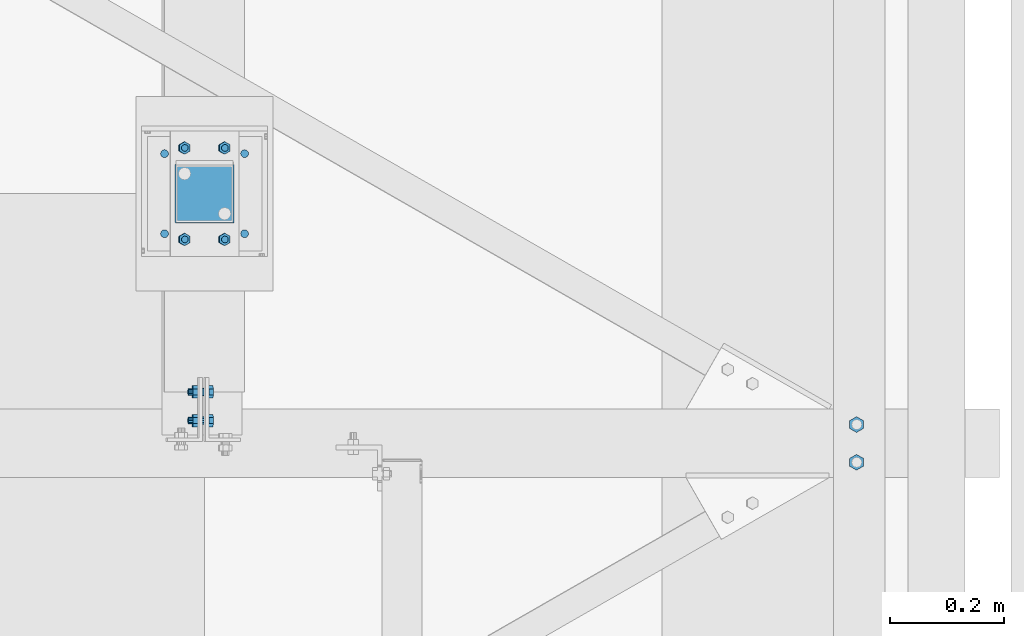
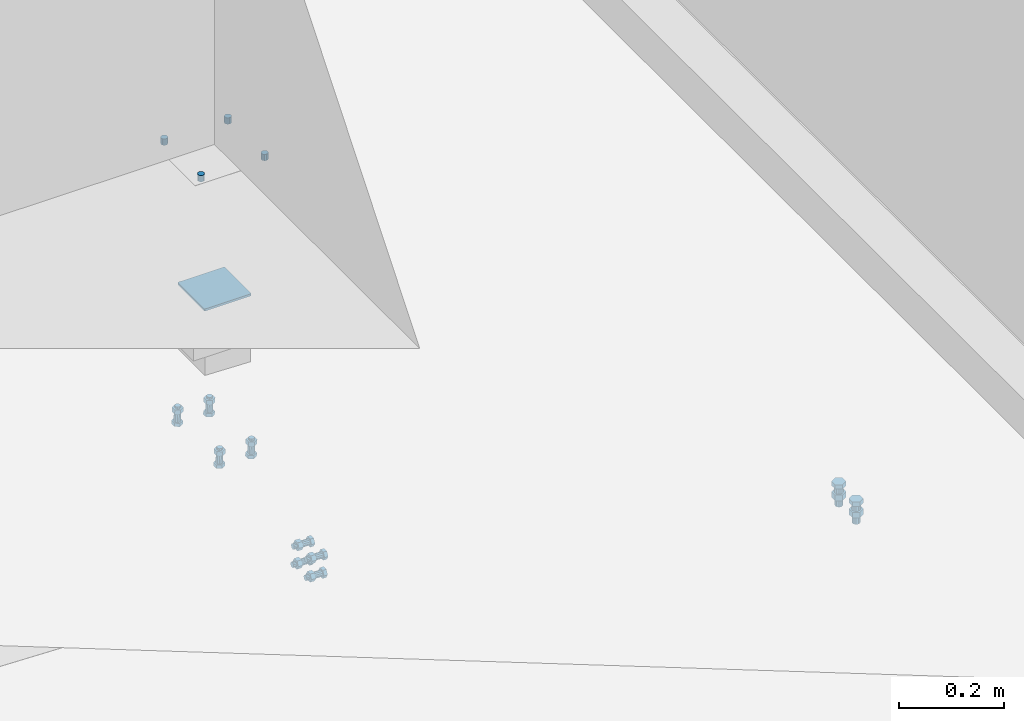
# One storey, part 396 of 3134: 5 mechanical fasteners, 4 elements without a shape of their own.
"""IFC2X3 building model written with IfcOpenShell, lengths in millimetres."""

from ifc_helpers import new_model, si_unit, frame, origin_with_axes, place, context, subcontext, project, spatial, faceted_brep, source, transform, mapped, material, type_object, element, aggregate, save


model = new_model("IFC2X3")

# Units and contexts
model_context = context("Model", 3, precision=1e-05, world=origin_with_axes())
body_context = subcontext(model_context, "Body", "Model", "MODEL_VIEW")
ifc_project = project(units=[si_unit("LENGTHUNIT", "METRE", prefix="MILLI"), si_unit("AREAUNIT", "SQUARE_METRE"), si_unit("VOLUMEUNIT", "CUBIC_METRE"), si_unit("MASSUNIT", "GRAM", prefix="KILO"), si_unit("TIMEUNIT", "SECOND"), si_unit("PLANEANGLEUNIT", "RADIAN"), si_unit("SOLIDANGLEUNIT", "STERADIAN"), si_unit("THERMODYNAMICTEMPERATUREUNIT", "DEGREE_CELSIUS"), si_unit("LUMINOUSINTENSITYUNIT", "LUMEN")], contexts=[model_context])

# Site, building, storey
site_placement = place(None, origin_with_axes())
site = spatial("IfcSite", under=ifc_project, at=site_placement, CompositionType="ELEMENT")
building_placement = place(site_placement, origin_with_axes())
building = spatial("IfcBuilding", under=site, at=building_placement, Name="Undefined", CompositionType="ELEMENT")
storey_placement = place(building_placement, origin_with_axes())
storey = spatial("IfcBuildingStorey", under=building, at=storey_placement, Name="Undefined", CompositionType="ELEMENT", Elevation=0.0)

# Assembly, mechanical fastener
assembly_1_placement = place(storey_placement, origin_with_axes())
assembly_1 = element("IfcElementAssembly", 1, at=assembly_1_placement, inside=storey, AssemblyPlace="NOTDEFINED", PredefinedType="RIGID_FRAME")
ifc_material_1 = material(Name="6.8")
mechanical_fastener_type = type_object("IfcMechanicalFastenerType", Name="Bolt assembly")
shared_shape_1 = source(origin_with_axes(), body_context, "Body", "Brep", [
    faceted_brep([(51.5, 1.36424205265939e-12, 50.0), (51.3858192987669, 1.36424205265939e-12, 50.5740251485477), (51.0606601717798, 1.36424205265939e-12, 51.0606601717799), (50.5740251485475, 1.36424205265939e-12, 51.385819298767), (-50.0000000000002, 1.36424205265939e-12, 51.5), (-50.7500000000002, 1.36424205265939e-12, 51.2990381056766), (-51.2990381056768, 1.36424205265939e-12, 50.7499999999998), (-51.5, 1.36424205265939e-12, 49.9999999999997), (-51.5, 1.36424205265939e-12, -50.0000000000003), (-51.2990381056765, 1.36424205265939e-12, -50.7500000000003), (-50.7499999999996, 1.36424205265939e-12, -51.2990381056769), (-49.9999999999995, 1.36424205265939e-12, -51.5), (50.0000000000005, 1.36424205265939e-12, -51.5), (50.7500000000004, 1.36424205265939e-12, -51.2990381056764), (51.2990381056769, 1.36424205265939e-12, -50.7499999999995), (51.5, 1.36424205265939e-12, -49.9999999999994), (51.5, 5.10000000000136, -49.9999999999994), (51.2990381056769, 5.10000000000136, -50.7499999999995), (50.7500000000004, 5.10000000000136, -51.2990381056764), (50.0000000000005, 5.10000000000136, -51.5), (-49.9999999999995, 5.10000000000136, -51.5), (-50.7499999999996, 5.10000000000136, -51.2990381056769), (-51.2990381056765, 5.10000000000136, -50.7500000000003), (-51.5, 5.10000000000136, -50.0000000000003), (-51.5, 5.10000000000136, 49.9999999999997), (-51.2990381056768, 5.10000000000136, 50.7499999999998), (-50.7500000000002, 5.10000000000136, 51.2990381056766), (-50.0000000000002, 5.10000000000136, 51.5), (50.5740251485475, 5.10000000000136, 51.385819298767), (51.0606601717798, 5.10000000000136, 51.0606601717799), (51.3858192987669, 5.10000000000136, 50.5740251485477), (51.5, 5.10000000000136, 50.0)], [[[0, 1, 2, 3, 4, 5, 6, 7, 8, 9, 10, 11, 12, 13, 14, 15]], [[16, 17, 18, 19, 20, 21, 22, 23, 24, 25, 26, 27, 28, 29, 30, 31]], [[0, 31, 30, 1]], [[1, 30, 29, 2]], [[2, 29, 28, 3]], [[3, 28, 27, 4]], [[4, 27, 26, 5]], [[5, 26, 25, 6]], [[6, 25, 24, 7]], [[7, 24, 23, 8]], [[8, 23, 22, 9]], [[9, 22, 21, 10]], [[10, 21, 20, 11]], [[11, 20, 19, 12]], [[12, 19, 18, 13]], [[13, 18, 17, 14]], [[14, 17, 16, 15]], [[15, 16, 31, 0]]]),
])
mechanical_fastener_1_placement = place(assembly_1_placement, frame((77945.0, 22320.0, 4146.62), z_axis=(0.0, -1.0, 0.0), x_axis=(-1.0, 0.0, 0.0)))
mechanical_fastener_1 = element("IfcMechanicalFastener", 2, at=mechanical_fastener_1_placement, type_object=mechanical_fastener_type, material=ifc_material_1, Name="Bolt assembly", NominalDiameter=10.0, NominalLength=5.0, context=body_context, shape_type="MappedRepresentation", body=[
    mapped(shared_shape_1, transform((0.0, 0.0, 0.0))),
])

assembly_2_placement = place(storey_placement, origin_with_axes())
assembly_2 = element("IfcElementAssembly", 3, at=assembly_2_placement, inside=storey, Name="UPN260", AssemblyPlace="NOTDEFINED", PredefinedType="RIGID_FRAME")
ifc_material_2 = material(Name="8.8")
shared_shape_2 = source(origin_with_axes(), body_context, "Body", "Brep", [
    faceted_brep([(13.856406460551, -10.0, 0.0), (6.92820323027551, -10.0, 12.0), (-6.92820323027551, -10.0, 12.0), (-13.856406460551, -10.0, 1.69692038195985e-15), (-6.92820323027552, -10.0, -12.0), (6.9282032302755, -10.0, -12.0), (6.9282032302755, 0.0, -12.0), (-6.92820323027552, 0.0, -12.0), (-13.856406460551, 0.0, 1.69692038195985e-15), (-6.92820323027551, 0.0, 12.0), (6.92820323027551, 0.0, 12.0), (13.856406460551, 0.0, 0.0), (8.0, 0.0, 0.0), (6.92820323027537, 0.0, 4.00000000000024), (3.99999999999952, 0.0, 6.92820323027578), (-8.29068785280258e-13, 0.0, 8.0), (-4.00000000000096, 0.0, 6.92820323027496), (-6.9282032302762, 0.0, 3.99999999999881), (-8.0, 0.0, -1.65813757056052e-12), (-6.92820323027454, 0.0, -4.00000000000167), (-3.99999999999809, 0.0, -6.92820323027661), (2.47832457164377e-12, 0.0, -8.0), (4.00000000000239, 0.0, -6.92820323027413), (6.92820323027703, 0.0, -3.99999999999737), (6.92820323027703, 45.0, -3.99999999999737), (4.00000000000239, 45.0, -6.92820323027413), (2.47832457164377e-12, 45.0, -8.0), (-3.99999999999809, 45.0, -6.92820323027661), (-6.92820323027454, 45.0, -4.00000000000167), (-8.0, 45.0, -1.65813757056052e-12), (-6.9282032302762, 45.0, 3.99999999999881), (-4.00000000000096, 45.0, 6.92820323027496), (-8.29068785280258e-13, 45.0, 8.0), (3.99999999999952, 45.0, 6.92820323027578), (6.92820323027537, 45.0, 4.00000000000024), (8.0, 45.0, 0.0), (13.856406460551, 13.9999999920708, 0.0), (6.92820323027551, 13.9999999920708, 12.0), (-6.92820323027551, 13.9999999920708, 12.0), (-13.856406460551, 13.9999999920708, 1.69692038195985e-15), (-6.92820323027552, 13.9999999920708, -12.0), (6.9282032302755, 13.9999999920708, -12.0), (6.9282032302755, 27.0, -12.0), (-6.92820323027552, 27.0, -12.0), (-13.856406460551, 27.0, 1.69692038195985e-15), (-6.92820323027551, 27.0, 12.0), (6.92820323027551, 27.0, 12.0), (13.856406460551, 27.0, 0.0)], [[[0, 1, 2, 3, 4, 5]], [[6, 7, 8, 9, 10, 11]], [[0, 11, 10, 1]], [[1, 10, 9, 2]], [[2, 9, 8, 3]], [[3, 8, 7, 4]], [[4, 7, 6, 5]], [[5, 6, 11, 0]], [[12, 13, 14, 15, 16, 17, 18, 19, 20, 21, 22, 23]], [[24, 25, 26, 27, 28, 29, 30, 31, 32, 33, 34, 35]], [[12, 35, 34, 13]], [[13, 34, 33, 14]], [[14, 33, 32, 15]], [[15, 32, 31, 16]], [[16, 31, 30, 17]], [[17, 30, 29, 18]], [[18, 29, 28, 19]], [[19, 28, 27, 20]], [[20, 27, 26, 21]], [[21, 26, 25, 22]], [[22, 25, 24, 23]], [[23, 24, 35, 12]], [[36, 37, 38, 39, 40, 41]], [[42, 43, 44, 45, 46, 47]], [[36, 47, 46, 37]], [[37, 46, 45, 38]], [[38, 45, 44, 39]], [[39, 44, 43, 40]], [[40, 43, 42, 41]], [[41, 42, 47, 36]]]),
    faceted_brep([(9.0, -3.46568413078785e-07, 0.0), (7.79422863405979, -3.46568413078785e-07, 4.50000000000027), (4.49999999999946, -3.46568413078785e-07, 7.79422863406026), (-9.3270238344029e-13, -3.46568413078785e-07, 9.0), (-4.50000000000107, -3.46568413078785e-07, 7.79422863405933), (-7.79422863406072, -3.46568413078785e-07, 4.49999999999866), (-9.0, -3.46568413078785e-07, -1.86540476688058e-12), (-7.79422863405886, -3.46568413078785e-07, -4.50000000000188), (-4.49999999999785, -3.46568413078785e-07, -7.79422863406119), (2.78811514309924e-12, -3.46568413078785e-07, -9.0), (4.50000000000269, -3.46568413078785e-07, -7.7942286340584), (7.79422863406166, -3.46568413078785e-07, -4.49999999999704), (7.79422863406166, 14.1000000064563, -4.49999999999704), (4.50000000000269, 14.1000000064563, -7.7942286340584), (2.78811514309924e-12, 14.1000000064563, -9.0), (-4.49999999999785, 14.1000000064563, -7.79422863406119), (-7.79422863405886, 14.1000000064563, -4.50000000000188), (-9.0, 14.1000000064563, -1.86540476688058e-12), (-7.79422863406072, 14.1000000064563, 4.49999999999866), (-4.50000000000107, 14.1000000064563, 7.79422863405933), (-9.3270238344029e-13, 14.1000000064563, 9.0), (4.49999999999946, 14.1000000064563, 7.79422863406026), (7.79422863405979, 14.1000000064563, 4.50000000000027), (9.0, 14.1000000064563, 0.0)], [[[0, 1, 2, 3, 4, 5, 6, 7, 8, 9, 10, 11]], [[12, 13, 14, 15, 16, 17, 18, 19, 20, 21, 22, 23]], [[0, 23, 22, 1]], [[1, 22, 21, 2]], [[2, 21, 20, 3]], [[3, 20, 19, 4]], [[4, 19, 18, 5]], [[5, 18, 17, 6]], [[6, 17, 16, 7]], [[7, 16, 15, 8]], [[8, 15, 14, 9]], [[9, 14, 13, 10]], [[10, 13, 12, 11]], [[11, 12, 23, 0]]]),
])
mechanical_fastener_2_placement = place(assembly_2_placement, frame((79085.0000000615, 21850.333333, 3532.96480904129), z_axis=(-0.99999999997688, 0.0, -6.80000067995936e-06), x_axis=(0.0, 1.0, 0.0)))
mechanical_fastener_2 = element("IfcMechanicalFastener", 4, at=mechanical_fastener_2_placement, type_object=mechanical_fastener_type, material=ifc_material_2, Name="Bolt assembly", NominalDiameter=16.0, NominalLength=45.0, context=body_context, shape_type="MappedRepresentation", body=[
    mapped(shared_shape_2, transform((0.0, 0.0, 0.0))),
    mapped(shared_shape_2, transform((66.0, 0.0, 0.0))),
])
aggregate(assembly_2, [mechanical_fastener_2])

assembly_3_placement = place(storey_placement, origin_with_axes())
assembly_3 = element("IfcElementAssembly", 5, at=assembly_3_placement, inside=storey, AssemblyPlace="NOTDEFINED", PredefinedType="RIGID_FRAME")
shared_shape_3 = source(origin_with_axes(), body_context, "Body", "Brep", [
    faceted_brep([(10.9696551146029, -14.250187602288, 0.0), (5.48482755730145, -14.250187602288, 9.5), (-5.48482755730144, -14.250187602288, 9.5), (-10.9696551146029, -14.250187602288, 1.34339530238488e-15), (-5.48482755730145, -14.250187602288, -9.5), (5.48482755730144, -14.250187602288, -9.50000000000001), (5.48482755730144, -6.25018760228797, -9.50000000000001), (-5.48482755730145, -6.25018760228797, -9.5), (-10.9696551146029, -6.25018760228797, 1.34339530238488e-15), (-5.48482755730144, -6.25018760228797, 9.5), (5.48482755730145, -6.25018760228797, 9.5), (10.9696551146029, -6.25018760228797, 0.0), (6.0, -6.25018760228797, 0.0), (5.19615242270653, -6.25018760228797, 3.00000000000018), (2.99999999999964, -6.25018760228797, 5.19615242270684), (-6.21801588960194e-13, -6.25018760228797, 6.0), (-3.00000000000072, -6.25018760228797, 5.19615242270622), (-5.19615242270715, -6.25018760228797, 2.9999999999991), (-6.0, -6.25018760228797, -1.24360317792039e-12), (-5.19615242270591, -6.25018760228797, -3.00000000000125), (-2.99999999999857, -6.25018760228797, -5.19615242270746), (1.85874342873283e-12, -6.25018760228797, -6.0), (3.00000000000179, -6.25018760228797, -5.1961524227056), (5.19615242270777, -6.25018760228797, -2.99999999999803), (5.19615242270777, 28.749812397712, -2.99999999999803), (3.00000000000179, 28.749812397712, -5.1961524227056), (1.85874342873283e-12, 28.749812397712, -6.0), (-2.99999999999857, 28.749812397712, -5.19615242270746), (-5.19615242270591, 28.749812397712, -3.00000000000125), (-6.0, 28.749812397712, -1.24360317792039e-12), (-5.19615242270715, 28.749812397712, 2.9999999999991), (-3.00000000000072, 28.749812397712, 5.19615242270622), (-6.21801588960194e-13, 28.749812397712, 6.0), (2.99999999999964, 28.749812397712, 5.19615242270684), (5.19615242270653, 28.749812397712, 3.00000000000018), (6.0, 28.749812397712, 0.0), (10.9696551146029, 11.2575524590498, 0.0), (5.48482755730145, 11.2575524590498, 9.5), (-5.48482755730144, 11.2575524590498, 9.5), (-10.9696551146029, 11.2575524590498, 1.34339530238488e-15), (-5.48482755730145, 11.2575524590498, -9.5), (5.48482755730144, 11.2575524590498, -9.50000000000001), (5.48482755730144, 21.2575524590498, -9.50000000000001), (-5.48482755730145, 21.2575524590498, -9.5), (-10.9696551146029, 21.2575524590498, 1.34339530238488e-15), (-5.48482755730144, 21.2575524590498, 9.5), (5.48482755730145, 21.2575524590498, 9.5), (10.9696551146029, 21.2575524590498, 0.0)], [[[0, 1, 2, 3, 4, 5]], [[6, 7, 8, 9, 10, 11]], [[0, 11, 10, 1]], [[1, 10, 9, 2]], [[2, 9, 8, 3]], [[3, 8, 7, 4]], [[4, 7, 6, 5]], [[5, 6, 11, 0]], [[12, 13, 14, 15, 16, 17, 18, 19, 20, 21, 22, 23]], [[24, 25, 26, 27, 28, 29, 30, 31, 32, 33, 34, 35]], [[12, 35, 34, 13]], [[13, 34, 33, 14]], [[14, 33, 32, 15]], [[15, 32, 31, 16]], [[16, 31, 30, 17]], [[17, 30, 29, 18]], [[18, 29, 28, 19]], [[19, 28, 27, 20]], [[20, 27, 26, 21]], [[21, 26, 25, 22]], [[22, 25, 24, 23]], [[23, 24, 35, 12]], [[36, 37, 38, 39, 40, 41]], [[42, 43, 44, 45, 46, 47]], [[36, 47, 46, 37]], [[37, 46, 45, 38]], [[38, 45, 44, 39]], [[39, 44, 43, 40]], [[40, 43, 42, 41]], [[41, 42, 47, 36]]]),
    faceted_brep([(7.0, 5.15755245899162, 0.0), (6.06217782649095, 5.15755245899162, 3.50000000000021), (3.49999999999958, 5.15755245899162, 6.06217782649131), (-7.25435187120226e-13, 5.15755245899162, 7.0), (-3.50000000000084, 5.15755245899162, 6.06217782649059), (-6.06217782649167, 5.15755245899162, 3.49999999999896), (-7.0, 5.15755245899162, -1.45087037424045e-12), (-6.06217782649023, 5.15755245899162, -3.50000000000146), (-3.49999999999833, 5.15755245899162, -6.06217782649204), (2.1685340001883e-12, 5.15755245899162, -7.0), (3.50000000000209, 5.15755245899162, -6.06217782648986), (6.0621778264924, 5.15755245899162, -3.4999999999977), (6.0621778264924, 11.2575524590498, -3.4999999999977), (3.50000000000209, 11.2575524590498, -6.06217782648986), (2.1685340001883e-12, 11.2575524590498, -7.0), (-3.49999999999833, 11.2575524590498, -6.06217782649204), (-6.06217782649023, 11.2575524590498, -3.50000000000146), (-7.0, 11.2575524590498, -1.45087037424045e-12), (-6.06217782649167, 11.2575524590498, 3.49999999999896), (-3.50000000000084, 11.2575524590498, 6.06217782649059), (-7.25435187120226e-13, 11.2575524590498, 7.0), (3.49999999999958, 11.2575524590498, 6.06217782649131), (6.06217782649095, 11.2575524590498, 3.50000000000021), (7.0, 11.2575524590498, 0.0), (7.0, -6.15018760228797, 0.0), (6.06217782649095, -6.15018760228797, 3.50000000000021), (3.49999999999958, -6.15018760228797, 6.06217782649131), (-7.25435187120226e-13, -6.15018760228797, 7.0), (-3.50000000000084, -6.15018760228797, 6.06217782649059), (-6.06217782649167, -6.15018760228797, 3.49999999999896), (-7.0, -6.15018760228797, -1.45087037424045e-12), (-6.06217782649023, -6.15018760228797, -3.50000000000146), (-3.49999999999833, -6.15018760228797, -6.06217782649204), (2.1685340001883e-12, -6.15018760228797, -7.0), (3.50000000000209, -6.15018760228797, -6.06217782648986), (6.0621778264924, -6.15018760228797, -3.4999999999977), (6.0621778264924, -0.150187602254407, -3.4999999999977), (3.50000000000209, -0.150187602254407, -6.06217782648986), (2.1685340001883e-12, -0.150187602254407, -7.0), (-3.49999999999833, -0.150187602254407, -6.06217782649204), (-6.06217782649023, -0.150187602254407, -3.50000000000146), (-7.0, -0.150187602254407, -1.45087037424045e-12), (-6.06217782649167, -0.150187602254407, 3.49999999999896), (-3.50000000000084, -0.150187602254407, 6.06217782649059), (-7.25435187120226e-13, -0.150187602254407, 7.0), (3.49999999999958, -0.150187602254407, 6.06217782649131), (6.06217782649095, -0.150187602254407, 3.50000000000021), (7.0, -0.150187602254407, 0.0), (7.0, -0.249172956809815, 0.0), (6.06217782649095, -0.249172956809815, 3.50000000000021), (3.49999999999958, -0.249172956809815, 6.06217782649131), (-7.25435187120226e-13, -0.249172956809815, 7.0), (-3.50000000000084, -0.249172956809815, 6.06217782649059), (-6.06217782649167, -0.249172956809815, 3.49999999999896), (-7.0, -0.249172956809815, -1.45087037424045e-12), (-6.06217782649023, -0.249172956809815, -3.50000000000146), (-3.49999999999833, -0.249172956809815, -6.06217782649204), (2.1685340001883e-12, -0.249172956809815, -7.0), (3.50000000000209, -0.249172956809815, -6.06217782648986), (6.0621778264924, -0.249172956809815, -3.4999999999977), (6.0621778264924, 5.25082704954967, -3.4999999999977), (3.50000000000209, 5.25082704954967, -6.06217782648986), (2.1685340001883e-12, 5.25082704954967, -7.0), (-3.49999999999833, 5.25082704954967, -6.06217782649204), (-6.06217782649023, 5.25082704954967, -3.50000000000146), (-7.0, 5.25082704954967, -1.45087037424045e-12), (-6.06217782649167, 5.25082704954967, 3.49999999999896), (-3.50000000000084, 5.25082704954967, 6.06217782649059), (-7.25435187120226e-13, 5.25082704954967, 7.0), (3.49999999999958, 5.25082704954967, 6.06217782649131), (6.06217782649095, 5.25082704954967, 3.50000000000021), (7.0, 5.25082704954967, 0.0)], [[[0, 1, 2, 3, 4, 5, 6, 7, 8, 9, 10, 11]], [[12, 13, 14, 15, 16, 17, 18, 19, 20, 21, 22, 23]], [[0, 23, 22, 1]], [[1, 22, 21, 2]], [[2, 21, 20, 3]], [[3, 20, 19, 4]], [[4, 19, 18, 5]], [[5, 18, 17, 6]], [[6, 17, 16, 7]], [[7, 16, 15, 8]], [[8, 15, 14, 9]], [[9, 14, 13, 10]], [[10, 13, 12, 11]], [[11, 12, 23, 0]], [[24, 25, 26, 27, 28, 29, 30, 31, 32, 33, 34, 35]], [[36, 37, 38, 39, 40, 41, 42, 43, 44, 45, 46, 47]], [[24, 47, 46, 25]], [[25, 46, 45, 26]], [[26, 45, 44, 27]], [[27, 44, 43, 28]], [[28, 43, 42, 29]], [[29, 42, 41, 30]], [[30, 41, 40, 31]], [[31, 40, 39, 32]], [[32, 39, 38, 33]], [[33, 38, 37, 34]], [[34, 37, 36, 35]], [[35, 36, 47, 24]], [[48, 49, 50, 51, 52, 53, 54, 55, 56, 57, 58, 59]], [[60, 61, 62, 63, 64, 65, 66, 67, 68, 69, 70, 71]], [[48, 71, 70, 49]], [[49, 70, 69, 50]], [[50, 69, 68, 51]], [[51, 68, 67, 52]], [[52, 67, 66, 53]], [[53, 66, 65, 54]], [[54, 65, 64, 55]], [[55, 64, 63, 56]], [[56, 63, 62, 57]], [[57, 62, 61, 58]], [[58, 61, 60, 59]], [[59, 60, 71, 48]]]),
])
mechanical_fastener_3_placement = place(assembly_3_placement, frame((77945.0588759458, 21923.34, 3743.49470157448), z_axis=(0.0309396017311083, 0.0, 0.999521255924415), x_axis=(0.0, 1.0, 0.0)))
mechanical_fastener_3 = element("IfcMechanicalFastener", 6, at=mechanical_fastener_3_placement, type_object=mechanical_fastener_type, material=ifc_material_2, Name="Bolt assembly", NominalDiameter=12.0, NominalLength=35.0, context=body_context, shape_type="MappedRepresentation", body=[
    mapped(shared_shape_3, transform((0.0, 0.0, -21.0))),
    mapped(shared_shape_3, transform((50.0, -1.01863406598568e-10, -20.9999999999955))),
    mapped(shared_shape_3, transform((0.0, 0.0, 21.0))),
    mapped(shared_shape_3, transform((50.0, 1.30967237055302e-10, 20.9999999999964))),
])
aggregate(assembly_3, [mechanical_fastener_3])

# Mechanical fastener
shared_shape_4 = source(origin_with_axes(), body_context, "Body", "Brep", [
    faceted_brep([(7.0, -4.90000000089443, 0.0), (6.06217782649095, -4.90000000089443, 3.50000000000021), (3.49999999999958, -4.90000000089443, 6.06217782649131), (-7.25435187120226e-13, -4.90000000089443, 7.0), (-3.50000000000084, -4.90000000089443, 6.06217782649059), (-6.06217782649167, -4.90000000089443, 3.49999999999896), (-7.0, -4.90000000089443, -1.45087037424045e-12), (-6.06217782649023, -4.90000000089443, -3.50000000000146), (-3.49999999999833, -4.90000000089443, -6.06217782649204), (2.1685340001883e-12, -4.90000000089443, -7.0), (3.50000000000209, -4.90000000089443, -6.06217782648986), (6.0621778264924, -4.90000000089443, -3.4999999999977), (6.0621778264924, 0.0999999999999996, -3.4999999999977), (3.50000000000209, 0.0999999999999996, -6.06217782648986), (2.1685340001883e-12, 0.0999999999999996, -7.0), (-3.49999999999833, 0.0999999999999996, -6.06217782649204), (-6.06217782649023, 0.0999999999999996, -3.50000000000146), (-7.0, 0.0999999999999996, -1.45087037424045e-12), (-6.06217782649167, 0.0999999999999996, 3.49999999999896), (-3.50000000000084, 0.0999999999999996, 6.06217782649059), (-7.25435187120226e-13, 0.0999999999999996, 7.0), (3.49999999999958, 0.0999999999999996, 6.06217782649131), (6.06217782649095, 0.0999999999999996, 3.50000000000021), (7.0, 0.0999999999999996, 0.0), (7.0, -0.1, 0.0), (6.06217782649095, -0.1, 3.50000000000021), (3.49999999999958, -0.1, 6.06217782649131), (-7.25435187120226e-13, -0.1, 7.0), (-3.50000000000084, -0.1, 6.06217782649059), (-6.06217782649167, -0.1, 3.49999999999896), (-7.0, -0.1, -1.45087037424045e-12), (-6.06217782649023, -0.1, -3.50000000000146), (-3.49999999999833, -0.1, -6.06217782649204), (2.1685340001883e-12, -0.1, -7.0), (3.50000000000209, -0.1, -6.06217782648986), (6.0621778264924, -0.1, -3.4999999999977), (6.0621778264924, 10.0, -3.4999999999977), (3.50000000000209, 10.0, -6.06217782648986), (2.1685340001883e-12, 10.0, -7.0), (-3.49999999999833, 10.0, -6.06217782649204), (-6.06217782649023, 10.0, -3.50000000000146), (-7.0, 10.0, -1.45087037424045e-12), (-6.06217782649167, 10.0, 3.49999999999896), (-3.50000000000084, 10.0, 6.06217782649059), (-7.25435187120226e-13, 10.0, 7.0), (3.49999999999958, 10.0, 6.06217782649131), (6.06217782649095, 10.0, 3.50000000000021), (7.0, 10.0, 0.0)], [[[0, 1, 2, 3, 4, 5, 6, 7, 8, 9, 10, 11]], [[12, 13, 14, 15, 16, 17, 18, 19, 20, 21, 22, 23]], [[0, 23, 22, 1]], [[1, 22, 21, 2]], [[2, 21, 20, 3]], [[3, 20, 19, 4]], [[4, 19, 18, 5]], [[5, 18, 17, 6]], [[6, 17, 16, 7]], [[7, 16, 15, 8]], [[8, 15, 14, 9]], [[9, 14, 13, 10]], [[10, 13, 12, 11]], [[11, 12, 23, 0]], [[24, 25, 26, 27, 28, 29, 30, 31, 32, 33, 34, 35]], [[36, 37, 38, 39, 40, 41, 42, 43, 44, 45, 46, 47]], [[24, 47, 46, 25]], [[25, 46, 45, 26]], [[26, 45, 44, 27]], [[27, 44, 43, 28]], [[28, 43, 42, 29]], [[29, 42, 41, 30]], [[30, 41, 40, 31]], [[31, 40, 39, 32]], [[32, 39, 38, 33]], [[33, 38, 37, 34]], [[34, 37, 36, 35]], [[35, 36, 47, 24]]]),
])
mechanical_fastener_4_placement = place(assembly_1_placement, frame((77945.0, 22250.0, 4475.0), z_axis=(-1.0, 0.0, 0.0), x_axis=(0.0, 1.0, 0.0)))
mechanical_fastener_4 = element("IfcMechanicalFastener", 7, at=mechanical_fastener_4_placement, type_object=mechanical_fastener_type, material=ifc_material_2, Name="Bolt assembly", NominalDiameter=12.0, NominalLength=15.0, context=body_context, shape_type="MappedRepresentation", body=[
    mapped(shared_shape_4, transform((0.0, 0.0, -70.0))),
    mapped(shared_shape_4, transform((140.0, 0.0, -70.0))),
    mapped(shared_shape_4, transform((0.0, 0.0, 70.0))),
    mapped(shared_shape_4, transform((140.0, 0.0, 70.0))),
])

aggregate(assembly_1, [mechanical_fastener_4, mechanical_fastener_1])

# Assembly, mechanical fastener
assembly_4_placement = place(storey_placement, origin_with_axes())
assembly_4 = element("IfcElementAssembly", 8, at=assembly_4_placement, inside=storey, AssemblyPlace="NOTDEFINED", PredefinedType="RIGID_FRAME")
shared_shape_5 = source(origin_with_axes(), body_context, "Body", "Brep", [
    faceted_brep([(10.9696551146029, -28.5008088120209, 0.0), (5.48482755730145, -28.5008088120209, 9.5), (-5.48482755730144, -28.5008088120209, 9.5), (-10.9696551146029, -28.5008088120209, 1.34339530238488e-15), (-5.48482755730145, -28.5008088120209, -9.5), (5.48482755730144, -28.5008088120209, -9.50000000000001), (5.48482755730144, -20.5008088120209, -9.50000000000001), (-5.48482755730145, -20.5008088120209, -9.5), (-10.9696551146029, -20.5008088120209, 1.34339530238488e-15), (-5.48482755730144, -20.5008088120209, 9.5), (5.48482755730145, -20.5008088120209, 9.5), (10.9696551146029, -20.5008088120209, 0.0), (6.0, -20.5008088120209, 0.0), (5.19615242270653, -20.5008088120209, 3.00000000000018), (2.99999999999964, -20.5008088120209, 5.19615242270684), (-6.21801588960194e-13, -20.5008088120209, 6.0), (-3.00000000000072, -20.5008088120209, 5.19615242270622), (-5.19615242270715, -20.5008088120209, 2.9999999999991), (-6.0, -20.5008088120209, -1.24360317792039e-12), (-5.19615242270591, -20.5008088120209, -3.00000000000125), (-2.99999999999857, -20.5008088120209, -5.19615242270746), (1.85874342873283e-12, -20.5008088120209, -6.0), (3.00000000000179, -20.5008088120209, -5.1961524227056), (5.19615242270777, -20.5008088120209, -2.99999999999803), (5.19615242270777, 14.4991911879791, -2.99999999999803), (3.00000000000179, 14.4991911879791, -5.1961524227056), (1.85874342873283e-12, 14.4991911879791, -6.0), (-2.99999999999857, 14.4991911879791, -5.19615242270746), (-5.19615242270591, 14.4991911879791, -3.00000000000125), (-6.0, 14.4991911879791, -1.24360317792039e-12), (-5.19615242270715, 14.4991911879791, 2.9999999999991), (-3.00000000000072, 14.4991911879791, 5.19615242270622), (-6.21801588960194e-13, 14.4991911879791, 6.0), (2.99999999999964, 14.4991911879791, 5.19615242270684), (5.19615242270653, 14.4991911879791, 3.00000000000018), (6.0, 14.4991911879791, 0.0), (10.9696551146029, -0.000200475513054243, 0.0), (5.48482755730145, -0.000200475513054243, 9.5), (-5.48482755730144, -0.000200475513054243, 9.5), (-10.9696551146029, -0.000200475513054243, 1.34339530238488e-15), (-5.48482755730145, -0.000200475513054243, -9.5), (5.48482755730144, -0.000200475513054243, -9.50000000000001), (5.48482755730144, 9.99979952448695, -9.50000000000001), (-5.48482755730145, 9.99979952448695, -9.5), (-10.9696551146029, 9.99979952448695, 1.34339530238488e-15), (-5.48482755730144, 9.99979952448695, 9.5), (5.48482755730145, 9.99979952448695, 9.5), (10.9696551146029, 9.99979952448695, 0.0)], [[[0, 1, 2, 3, 4, 5]], [[6, 7, 8, 9, 10, 11]], [[0, 11, 10, 1]], [[1, 10, 9, 2]], [[2, 9, 8, 3]], [[3, 8, 7, 4]], [[4, 7, 6, 5]], [[5, 6, 11, 0]], [[12, 13, 14, 15, 16, 17, 18, 19, 20, 21, 22, 23]], [[24, 25, 26, 27, 28, 29, 30, 31, 32, 33, 34, 35]], [[12, 35, 34, 13]], [[13, 34, 33, 14]], [[14, 33, 32, 15]], [[15, 32, 31, 16]], [[16, 31, 30, 17]], [[17, 30, 29, 18]], [[18, 29, 28, 19]], [[19, 28, 27, 20]], [[20, 27, 26, 21]], [[21, 26, 25, 22]], [[22, 25, 24, 23]], [[23, 24, 35, 12]], [[36, 37, 38, 39, 40, 41]], [[42, 43, 44, 45, 46, 47]], [[36, 47, 46, 37]], [[37, 46, 45, 38]], [[38, 45, 44, 39]], [[39, 44, 43, 40]], [[40, 43, 42, 41]], [[41, 42, 47, 36]]]),
    faceted_brep([(7.0, -10.100200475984, 0.0), (6.06217782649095, -10.100200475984, 3.50000000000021), (3.49999999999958, -10.100200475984, 6.06217782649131), (-7.25435187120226e-13, -10.100200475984, 7.0), (-3.50000000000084, -10.100200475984, 6.06217782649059), (-6.06217782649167, -10.100200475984, 3.49999999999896), (-7.0, -10.100200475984, -1.45087037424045e-12), (-6.06217782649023, -10.100200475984, -3.50000000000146), (-3.49999999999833, -10.100200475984, -6.06217782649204), (2.1685340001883e-12, -10.100200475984, -7.0), (3.50000000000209, -10.100200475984, -6.06217782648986), (6.0621778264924, -10.100200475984, -3.4999999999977), (6.0621778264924, -0.000200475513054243, -3.4999999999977), (3.50000000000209, -0.000200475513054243, -6.06217782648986), (2.1685340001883e-12, -0.000200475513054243, -7.0), (-3.49999999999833, -0.000200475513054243, -6.06217782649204), (-6.06217782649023, -0.000200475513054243, -3.50000000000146), (-7.0, -0.000200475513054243, -1.45087037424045e-12), (-6.06217782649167, -0.000200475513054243, 3.49999999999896), (-3.50000000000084, -0.000200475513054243, 6.06217782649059), (-7.25435187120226e-13, -0.000200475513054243, 7.0), (3.49999999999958, -0.000200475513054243, 6.06217782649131), (6.06217782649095, -0.000200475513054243, 3.50000000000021), (7.0, -0.000200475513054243, 0.0), (7.0, -12.0002021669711, 0.0), (6.06217782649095, -12.0002021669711, 3.50000000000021), (3.49999999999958, -12.0002021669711, 6.06217782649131), (-7.25435187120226e-13, -12.0002021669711, 7.0), (-3.50000000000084, -12.0002021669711, 6.06217782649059), (-6.06217782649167, -12.0002021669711, 3.49999999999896), (-7.0, -12.0002021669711, -1.45087037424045e-12), (-6.06217782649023, -12.0002021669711, -3.50000000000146), (-3.49999999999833, -12.0002021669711, -6.06217782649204), (2.1685340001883e-12, -12.0002021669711, -7.0), (3.50000000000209, -12.0002021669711, -6.06217782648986), (6.0621778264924, -12.0002021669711, -3.4999999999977), (6.0621778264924, -10.0002021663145, -3.4999999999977), (3.50000000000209, -10.0002021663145, -6.06217782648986), (2.1685340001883e-12, -10.0002021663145, -7.0), (-3.49999999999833, -10.0002021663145, -6.06217782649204), (-6.06217782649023, -10.0002021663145, -3.50000000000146), (-7.0, -10.0002021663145, -1.45087037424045e-12), (-6.06217782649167, -10.0002021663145, 3.49999999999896), (-3.50000000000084, -10.0002021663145, 6.06217782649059), (-7.25435187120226e-13, -10.0002021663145, 7.0), (3.49999999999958, -10.0002021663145, 6.06217782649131), (6.06217782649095, -10.0002021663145, 3.50000000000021), (7.0, -10.0002021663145, 0.0), (7.0, -20.4008088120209, 0.0), (6.06217782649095, -20.4008088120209, 3.50000000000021), (3.49999999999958, -20.4008088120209, 6.06217782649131), (-7.25435187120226e-13, -20.4008088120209, 7.0), (-3.50000000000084, -20.4008088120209, 6.06217782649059), (-6.06217782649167, -20.4008088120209, 3.49999999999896), (-7.0, -20.4008088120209, -1.45087037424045e-12), (-6.06217782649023, -20.4008088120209, -3.50000000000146), (-3.49999999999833, -20.4008088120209, -6.06217782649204), (2.1685340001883e-12, -20.4008088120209, -7.0), (3.50000000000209, -20.4008088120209, -6.06217782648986), (6.0621778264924, -20.4008088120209, -3.4999999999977), (6.0621778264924, -11.9009000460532, -3.4999999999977), (3.50000000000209, -11.9009000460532, -6.06217782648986), (2.1685340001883e-12, -11.9009000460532, -7.0), (-3.49999999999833, -11.9009000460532, -6.06217782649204), (-6.06217782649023, -11.9009000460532, -3.50000000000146), (-7.0, -11.9009000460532, -1.45087037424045e-12), (-6.06217782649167, -11.9009000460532, 3.49999999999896), (-3.50000000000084, -11.9009000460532, 6.06217782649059), (-7.25435187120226e-13, -11.9009000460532, 7.0), (3.49999999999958, -11.9009000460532, 6.06217782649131), (6.06217782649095, -11.9009000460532, 3.50000000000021), (7.0, -11.9009000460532, 0.0)], [[[0, 1, 2, 3, 4, 5, 6, 7, 8, 9, 10, 11]], [[12, 13, 14, 15, 16, 17, 18, 19, 20, 21, 22, 23]], [[0, 23, 22, 1]], [[1, 22, 21, 2]], [[2, 21, 20, 3]], [[3, 20, 19, 4]], [[4, 19, 18, 5]], [[5, 18, 17, 6]], [[6, 17, 16, 7]], [[7, 16, 15, 8]], [[8, 15, 14, 9]], [[9, 14, 13, 10]], [[10, 13, 12, 11]], [[11, 12, 23, 0]], [[24, 25, 26, 27, 28, 29, 30, 31, 32, 33, 34, 35]], [[36, 37, 38, 39, 40, 41, 42, 43, 44, 45, 46, 47]], [[24, 47, 46, 25]], [[25, 46, 45, 26]], [[26, 45, 44, 27]], [[27, 44, 43, 28]], [[28, 43, 42, 29]], [[29, 42, 41, 30]], [[30, 41, 40, 31]], [[31, 40, 39, 32]], [[32, 39, 38, 33]], [[33, 38, 37, 34]], [[34, 37, 36, 35]], [[35, 36, 47, 24]], [[48, 49, 50, 51, 52, 53, 54, 55, 56, 57, 58, 59]], [[60, 61, 62, 63, 64, 65, 66, 67, 68, 69, 70, 71]], [[48, 71, 70, 49]], [[49, 70, 69, 50]], [[50, 69, 68, 51]], [[51, 68, 67, 52]], [[52, 67, 66, 53]], [[53, 66, 65, 54]], [[54, 65, 64, 55]], [[55, 64, 63, 56]], [[56, 63, 62, 57]], [[57, 62, 61, 58]], [[58, 61, 60, 59]], [[59, 60, 71, 48]]]),
])
mechanical_fastener_5_placement = place(assembly_4_placement, frame((77945.0023230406, 22240.0012018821, 3821.98568377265), z_axis=(0.999519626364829, 0.0, -0.030992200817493), x_axis=(0.0, 0.9999999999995, 1.00000008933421e-06)))
mechanical_fastener_5 = element("IfcMechanicalFastener", 9, at=mechanical_fastener_5_placement, type_object=mechanical_fastener_type, material=ifc_material_2, Name="Bolt assembly", NominalDiameter=12.0, NominalLength=35.0, context=body_context, shape_type="MappedRepresentation", body=[
    mapped(shared_shape_5, transform((0.0, 0.0, -35.0))),
    mapped(shared_shape_5, transform((160.000000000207, -4.82032191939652e-10, -35.0))),
    mapped(shared_shape_5, transform((0.0, 0.0, 35.0))),
    mapped(shared_shape_5, transform((160.000000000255, 2.79214873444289e-10, 35.0000000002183))),
])
aggregate(assembly_4, [mechanical_fastener_5])

save(model, "model.ifc")
